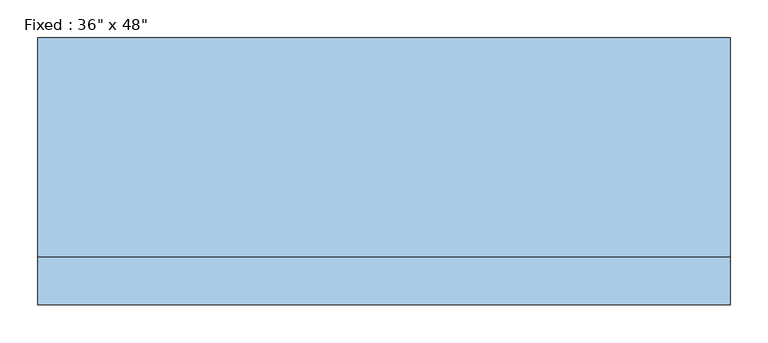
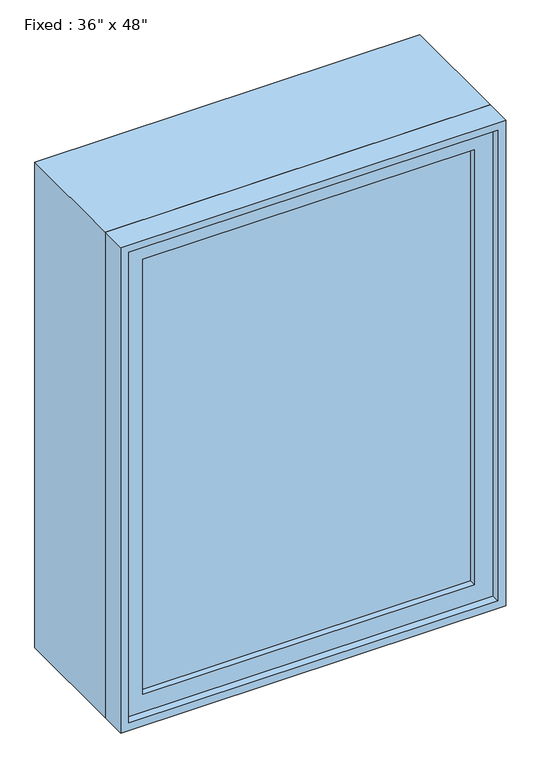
"""IFC4 building model written with IfcOpenShell, lengths in millimetres: window geometry."""

from ifc_helpers import new_model, si_unit, frame, origin, place, context, project, spatial, polyline, outline, extrude, source, transform, mapped, element, save


def window_0e2fc6ce(model_context):
    return source(origin(), model_context, "Body", "SweptSolid", [
        extrude(outline(polyline([(355.6, -128.5875), (355.6, -141.2875), (-431.8, -141.2875), (-431.8, -128.5875), (355.6, -128.5875)])), frame((0.0, 0.0, 977.9), z_axis=(0.0, 0.0, 1.0), x_axis=(1.0, 0.0, 0.0)), (0.0, 0.0, 1.0), 1092.2),
        extrude(outline(polyline([(2114.55, -476.25), (933.45, -476.25), (933.45, 400.05), (2114.55, 400.05), (2114.55, -476.25)]), holes=[polyline([(2070.1, -431.8), (2070.1, 355.6), (977.9, 355.6), (977.9, -431.8), (2070.1, -431.8)])]), frame((0.0, -157.1625, 0.0), z_axis=(0.0, 1.0, 0.0), x_axis=(0.0, 0.0, 1.0)), (0.0, 0.0, 1.0), 44.45),
        extrude(outline(polyline([(2133.6, -495.3), (914.4, -495.3), (914.4, 419.1), (2133.6, 419.1), (2133.6, -495.3)]), holes=[polyline([(2101.85, -463.55), (2101.85, 387.35), (946.15, 387.35), (946.15, -463.55), (2101.85, -463.55)])]), frame((0.0, -112.7125, 0.0), z_axis=(0.0, 1.0, 0.0), x_axis=(0.0, 0.0, 1.0)), (0.0, 0.0, 1.0), 288.925),
        extrude(outline(polyline([(2133.6, 419.1), (2133.6, -495.3), (914.4, -495.3), (914.4, 419.1), (2133.6, 419.1)]), holes=[polyline([(2114.55, 400.05), (933.45, 400.05), (933.45, -476.25), (2114.55, -476.25), (2114.55, 400.05)])]), frame((0.0, -176.2125, 0.0), z_axis=(0.0, 1.0, 0.0), x_axis=(0.0, 0.0, 1.0)), (0.0, 0.0, 1.0), 63.5),
    ])


if __name__ == "__main__":
    model = new_model("IFC4")
    model_context = context("Model", 3, world=origin())
    ifc_project = project(units=[si_unit("LENGTHUNIT", "METRE", prefix="MILLI")], contexts=[model_context])
    site = spatial("IfcSite", under=ifc_project)
    building = spatial("IfcBuilding", under=site)
    placement = place(None, origin())
    window_shape = window_0e2fc6ce(model_context)
    element("IfcWindow", 1, ObjectType="Fixed : 36\" x 48\"", at=placement, inside=building, context=model_context, shape_type="MappedRepresentation", body=[
        mapped(window_shape, transform((0.0, 0.0, 0.0), x_axis=(1.0, 0.0, 0.0), y_axis=(0.0, 1.0, 0.0), z_axis=(0.0, 0.0, 1.0))),
    ])
    save(model, "model.ifc")
